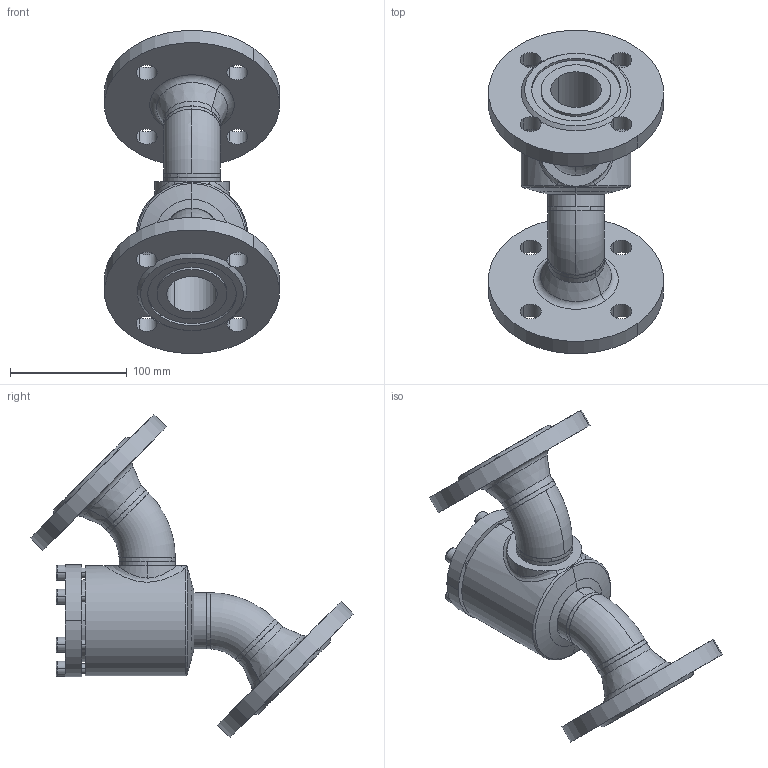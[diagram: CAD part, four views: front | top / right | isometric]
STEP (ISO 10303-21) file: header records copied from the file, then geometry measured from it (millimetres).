
FILE_DESCRIPTION (( 'STEP AP214' ), '1' );
FILE_NAME ('RV28320D14-DN040_DIN-FL-N_PS40.STEP', '2006-04-28T05:18:29', ( 'Herr Grams' ), ( 'AWP GmbH' ), 'SwSTEP 2.0', 'SolidWorks 2002296', '' );
FILE_SCHEMA (( 'AUTOMOTIVE_DESIGN' ));
Length unit declared in the file: millimetre
Products named in the file (13): RV28320D14-DN040_DIN-FL-N_PS40; RV28300E15_Deck+Schr-DN40-50_Standard; Deckel28300E15-DN40-50_Standard; Zylinderschraube-DIN912_M 8x 25; Gehäuse-kpl16320-DN040_DIN_PS40_Standard; Flansch-DIN2635-Nut_PS40_DIN-Flansch-DN040_PS40-Nut; Gehäuse-kpl16300-DN040_R1_Standard; Gehäuse16300-DN040_Standard; bead16300-Geh-040-2_Standard; bead16300-Geh-040-1_Standard; Rohrbogen 45°_R1-Fase_Rohrbogen-DN040-45°; bead16320-DN040-2_Standard; bead16320-DN040-1_Standard
Assembly tree (19 placements, depth 4):
  RV28320D14-DN040_DIN-FL-N_PS40
    Gehäuse-kpl16320-DN040_DIN_PS40_Standard
      bead16320-DN040-1_Standard
      Gehäuse-kpl16300-DN040_R1_Standard
        Rohrbogen 45°_R1-Fase_Rohrbogen-DN040-45°  x2
        bead16300-Geh-040-1_Standard
        Gehäuse16300-DN040_Standard
        bead16300-Geh-040-2_Standard
      Flansch-DIN2635-Nut_PS40_DIN-Flansch-DN040_PS40-Nut  x2
      bead16320-DN040-2_Standard
    RV28300E15_Deck+Schr-DN40-50_Standard
      Zylinderschraube-DIN912_M 8x 25  x6
      Deckel28300E15-DN40-50_Standard
Bounding box: 149.43 x 276.47 x 276.47 mm (x, y, z)
Volume: 1111031.7 mm3; surface area: 236936.5 mm2
Topology: 16 solids, 16 shells, 288 faces, 675 edges, 429 vertices
Faces by surface type: cylinder 97, plane 88, cone 58, torus 26, bspline 19
Entity records: 51874 total; most frequent: CARTESIAN_POINT 47617, DIRECTION 764, ORIENTED_EDGE 762, EDGE_CURVE 381, AXIS2_PLACEMENT_3D 325, VERTEX_POINT 243, EDGE_LOOP 192, CIRCLE 163
